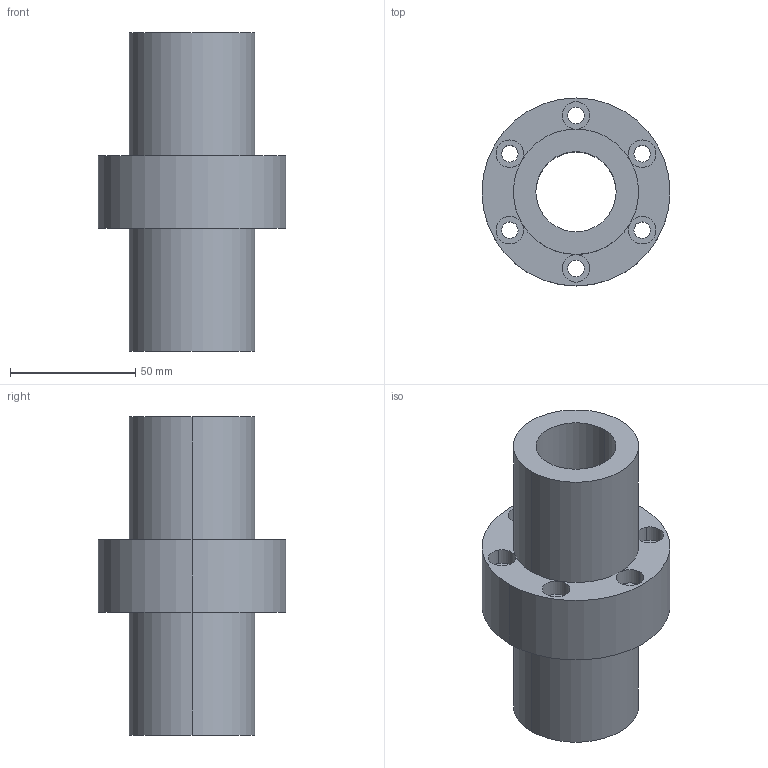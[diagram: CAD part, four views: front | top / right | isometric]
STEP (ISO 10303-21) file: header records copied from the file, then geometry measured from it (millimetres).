
FILE_DESCRIPTION((''),'2;1');
FILE_NAME('32-6T4','2008-04-03T',('yanyu'),(''),'PRO/ENGINEER BY PARAMETRIC TECHNOLOGY CORPORATION, 2005070','PRO/ENGINEER BY PARAMETRIC TECHNOLOGY CORPORATION, 2005070','');
FILE_SCHEMA(('CONFIG_CONTROL_DESIGN'));
Length unit declared in the file: millimetre
Products named in the file (1): 32-6T4
Bounding box: 75 x 75 x 127 mm (x, y, z)
Volume: 210076.3 mm3; surface area: 45957.8 mm2
Topology: 1 solids, 1 shells, 42 faces, 112 edges, 74 vertices
Faces by surface type: cylinder 32, plane 10
Entity records: 1426 total; most frequent: DIRECTION 276, CARTESIAN_POINT 228, ORIENTED_EDGE 224, AXIS2_PLACEMENT_3D 122, EDGE_CURVE 112, CIRCLE 80, VERTEX_POINT 74, EDGE_LOOP 58
